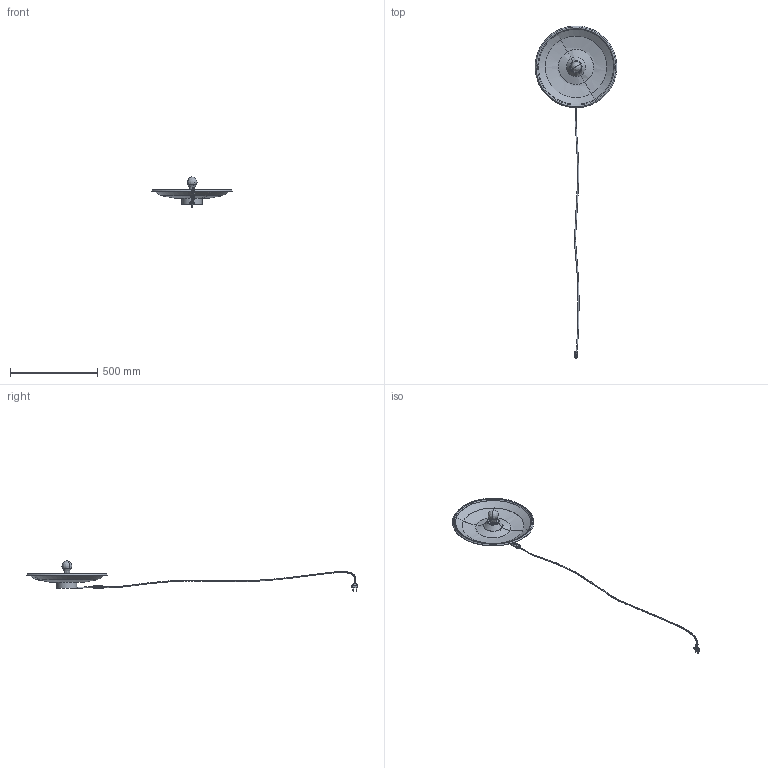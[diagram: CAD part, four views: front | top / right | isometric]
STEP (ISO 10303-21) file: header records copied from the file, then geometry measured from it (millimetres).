
FILE_DESCRIPTION(/* description */ (''),/* implementation_level */ '2;1');
FILE_NAME(/* name */ 'Moodel 262 Wall',/* time_stamp */ '2024-05-23T14:59:31+02:00',/* author */ (''),/* organization */ (''),/* preprocessor_version */ 'ST-DEVELOPER v16.5',/* originating_system */ '',/* authorisation */ '');
FILE_SCHEMA (('AUTOMOTIVE_DESIGN'));
Length unit declared in the file: millimetre
Products named in the file (1): Document
Bounding box: 467.64 x 1901.49 x 172.5 mm (x, y, z)
Volume: 1010930.3 mm3; surface area: 487857.7 mm2
Topology: 7 solids, 8 shells, 351 faces, 823 edges, 505 vertices
Faces by surface type: plane 171, bspline 105, cylinder 75
Full cylindrical faces by diameter (mm): 40.5 x1, 115 x1
Entity records: 16121 total; most frequent: CARTESIAN_POINT 10711, ORIENTED_EDGE 1624, EDGE_CURVE 813, VERTEX_POINT 505, B_SPLINE_CURVE_WITH_KNOTS 496, EDGE_LOOP 383, ADVANCED_FACE 351, FACE_OUTER_BOUND 351
